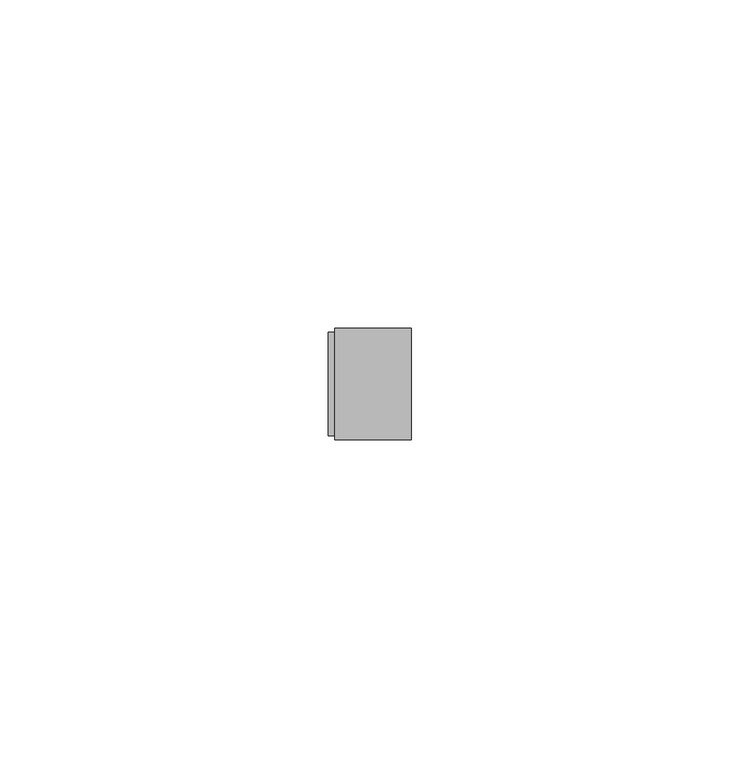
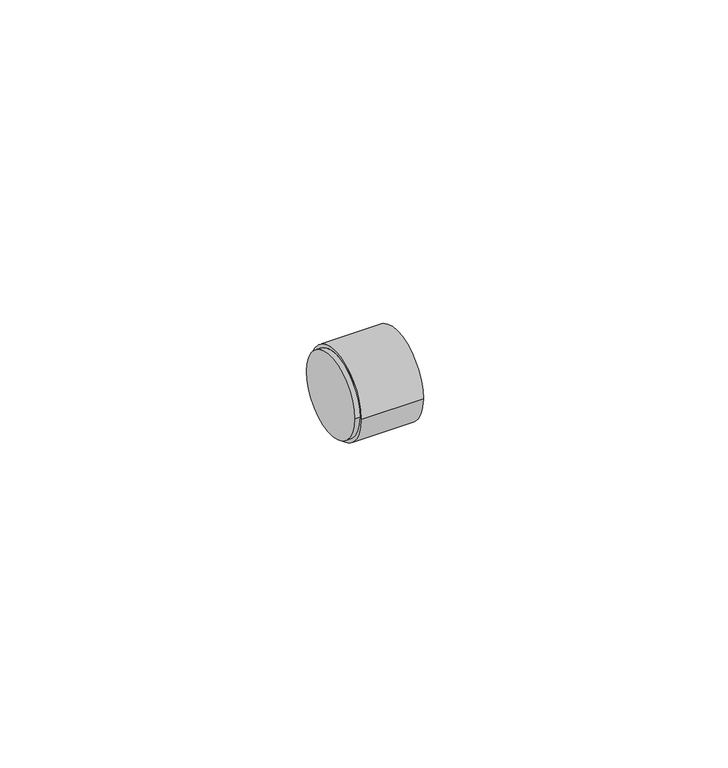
"""IFC4 building model written with IfcOpenShell, lengths in millimetres: pipe fitting geometry, Bucha de redução reta - Soldada - CU : Padrão."""

from ifc_helpers import new_model, si_unit, frame, origin, place, context, project, spatial, circle_curve, source, transform, mapped, element, save
from ifc_brep_helpers import plane_surface, cylinder_surface, advanced_brep


def pipe_fitting_c900cfc2(model_context):
    return source(origin(), model_context, "Body", "AdvancedBrep", [
        advanced_brep(
        [(0.0, -7.85, 0.0), (0.0, 7.85, 0.0), (1.0, -7.85, 0.0), (1.0, 7.85, 0.0), (12.6589, -8.4937, 0.0), (12.6589, 8.4937, 0.0), (1.0, 8.4937, 0.0), (1.0, -8.4937, 0.0)],
        [
            (0, 1, circle_curve(frame((0.0, 0.0, 0.0), z_axis=(-1.0, 0.0, 0.0), x_axis=(0.0, 1.0, 0.0)), 7.85)),
            (1, 0, circle_curve(frame((0.0, 0.0, 0.0), z_axis=(-1.0, 0.0, 0.0), x_axis=(0.0, 1.0, 0.0)), 7.85)),
            (0, 2),
            (2, 3, circle_curve(frame((1.0, 0.0, 0.0), z_axis=(-1.0, 0.0, 0.0), x_axis=(0.0, 1.0, 0.0)), 7.85)),
            (3, 1),
            (3, 2, circle_curve(frame((1.0, 0.0, 0.0), z_axis=(-1.0, 0.0, 0.0), x_axis=(0.0, 1.0, 0.0)), 7.85)),
            (4, 5, circle_curve(frame((12.6589, 0.0, 0.0), z_axis=(1.0, 0.0, 0.0), x_axis=(0.0, 1.0, 0.0)), 8.4937)),
            (5, 4, circle_curve(frame((12.6589, 0.0, 0.0), z_axis=(1.0, 0.0, 0.0), x_axis=(0.0, 1.0, 0.0)), 8.4937)),
            (6, 7, circle_curve(frame((1.0, 0.0, 0.0), z_axis=(1.0, 0.0, 0.0), x_axis=(0.0, 1.0, 0.0)), 8.4937)),
            (7, 4),
            (5, 6),
            (7, 6, circle_curve(frame((1.0, 0.0, 0.0), z_axis=(1.0, 0.0, 0.0), x_axis=(0.0, 1.0, 0.0)), 8.4937)),
        ],
        [
            plane_surface(frame((0.0, 0.0, 0.0), z_axis=(-1.0, 0.0, 0.0), x_axis=(0.0, 0.0, 1.0))),
            cylinder_surface(frame((0.0, 0.0, 0.0), z_axis=(-1.0, 0.0, 0.0), x_axis=(0.0, 1.0, 0.0)), 7.85),
            plane_surface(frame((12.6589, 0.0, 0.0), z_axis=(1.0, 0.0, 0.0), x_axis=(0.0, 0.0, 1.0))),
            cylinder_surface(frame((1.0, 0.0, 0.0), z_axis=(-1.0, 0.0, 0.0), x_axis=(0.0, 1.0, 0.0)), 8.4937),
            plane_surface(frame((1.0, 0.0, 0.0), z_axis=(-1.0, 0.0, 0.0), x_axis=(0.0, 0.0, 1.0))),
        ],
        [
            (0, [[1, 2]]),
            (1, [[-1, 3, 4, 5]]),
            (1, [[-2, -5, 6, -3]]),
            (2, [[7, 8]]),
            (3, [[9, 10, -8, 11]]),
            (3, [[12, -11, -7, -10]]),
            (4, [[-9, -12], [-4, -6]]),
        ],
    ),
    ])


if __name__ == "__main__":
    model = new_model("IFC4")
    model_context = context("Model", 3, world=origin())
    ifc_project = project(units=[si_unit("LENGTHUNIT", "METRE", prefix="MILLI")], contexts=[model_context])
    site = spatial("IfcSite", under=ifc_project)
    building = spatial("IfcBuilding", under=site)
    placement = place(None, origin())
    pipe_fitting_shape = pipe_fitting_c900cfc2(model_context)
    element("IfcPipeFitting", 1, ObjectType="Bucha de redução reta - Soldada - CU : Padrão", at=placement, inside=building, context=model_context, shape_type="MappedRepresentation", body=[
        mapped(pipe_fitting_shape, transform((0.0, 0.0, 0.0), x_axis=(1.0, 0.0, 0.0), y_axis=(0.0, 1.0, 0.0), z_axis=(0.0, 0.0, 1.0))),
    ])
    save(model, "model.ifc")
